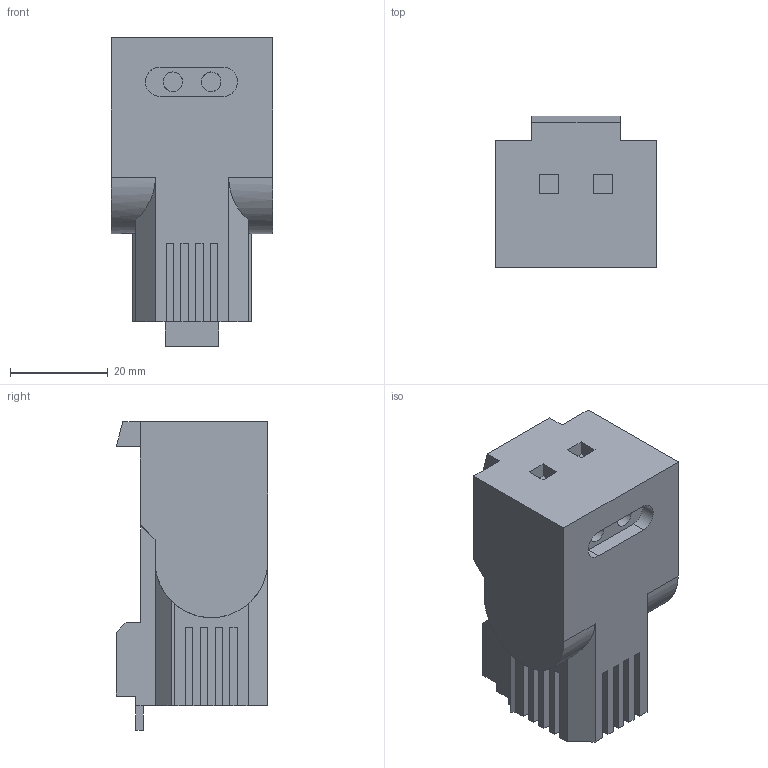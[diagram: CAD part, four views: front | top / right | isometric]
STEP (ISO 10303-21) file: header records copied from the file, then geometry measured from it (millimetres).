
FILE_DESCRIPTION(/* description */ (''),/* implementation_level */ '2;1');
FILE_NAME(/* name */ 'SQ0832~1',/* time_stamp */ '2024-07-11T09:17:55+03:00',/* author */ (''),/* organization */ (''),/* preprocessor_version */ 'ST-DEVELOPER v16.5',/* originating_system */ '',/* authorisation */ '');
FILE_SCHEMA (('CONFIG_CONTROL_DESIGN'));
Length unit declared in the file: millimetre
Products named in the file (1): Document
Bounding box: 33 x 30.91 x 63 mm (x, y, z)
Volume: 41065.1 mm3; surface area: 13445.4 mm2
Topology: 1 solids, 1 shells, 152 faces, 407 edges, 272 vertices
Faces by surface type: plane 146, cylinder 6
Full cylindrical faces by diameter (mm): 4 x2
Entity records: 4208 total; most frequent: CARTESIAN_POINT 1296, ORIENTED_EDGE 814, EDGE_CURVE 407, B_SPLINE_CURVE_WITH_KNOTS 385, VERTEX_POINT 272, EDGE_LOOP 167, DIRECTION 156, AXIS2_PLACEMENT_3D 154
